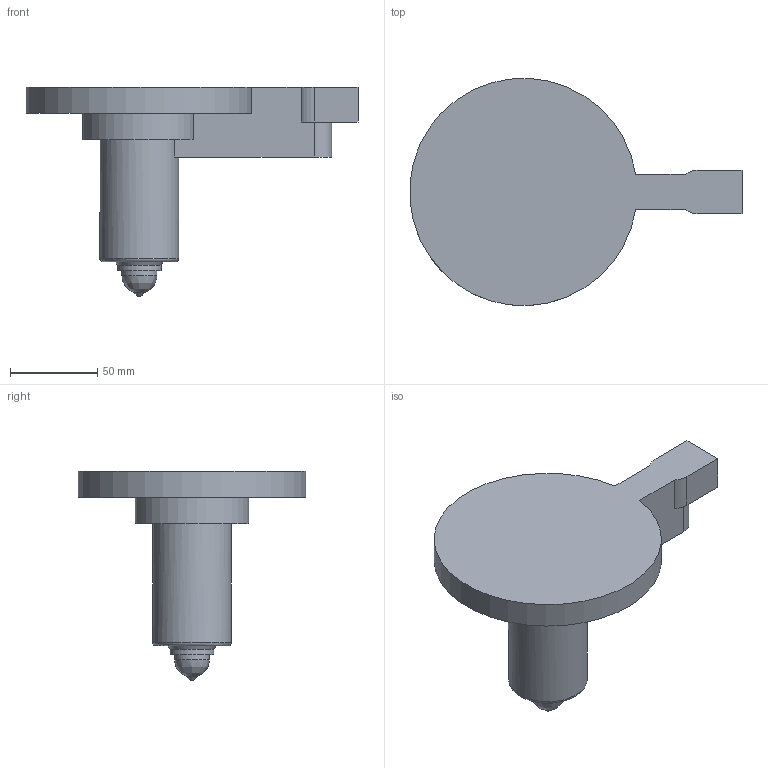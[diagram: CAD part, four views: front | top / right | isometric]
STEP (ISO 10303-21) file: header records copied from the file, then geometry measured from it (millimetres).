
FILE_DESCRIPTION( ( 'STEP AP214' ), '1' );
FILE_NAME( 'S:/PROIECTE_YUDO_2009_dupa_1.07.2009/PROIECTE YUDO 3D 01.07.2009/BLS/YUEU09-BLS25CC090_1.5/YUEU09-BLS25CC090_cutout.step', '2009-08-31T11:37:58', ( ' ' ), ( ' ' ), 'XStep 1.0', ' ', ' ' );
FILE_SCHEMA( ( 'automotive_design' ) );
Length unit declared in the file: millimetre
Products named in the file (2): 1; 2
Bounding box: 189.76 x 129.83 x 120 mm (x, y, z)
Volume: 428483.6 mm3; surface area: 55772.6 mm2
Topology: 2 solids, 2 shells, 26 faces, 60 edges, 39 vertices
Faces by surface type: plane 14, cylinder 8, cone 2, bspline 1, torus 1
Full cylindrical faces by diameter (mm): 20 x1, 25 x1, 45 x1
Entity records: 950 total; most frequent: CARTESIAN_POINT 143, DIRECTION 126, ORIENTED_EDGE 102, EDGE_CURVE 51, AXIS2_PLACEMENT_3D 48, VERTEX_POINT 37, EDGE_LOOP 34, FACE_OUTER_BOUND 31
